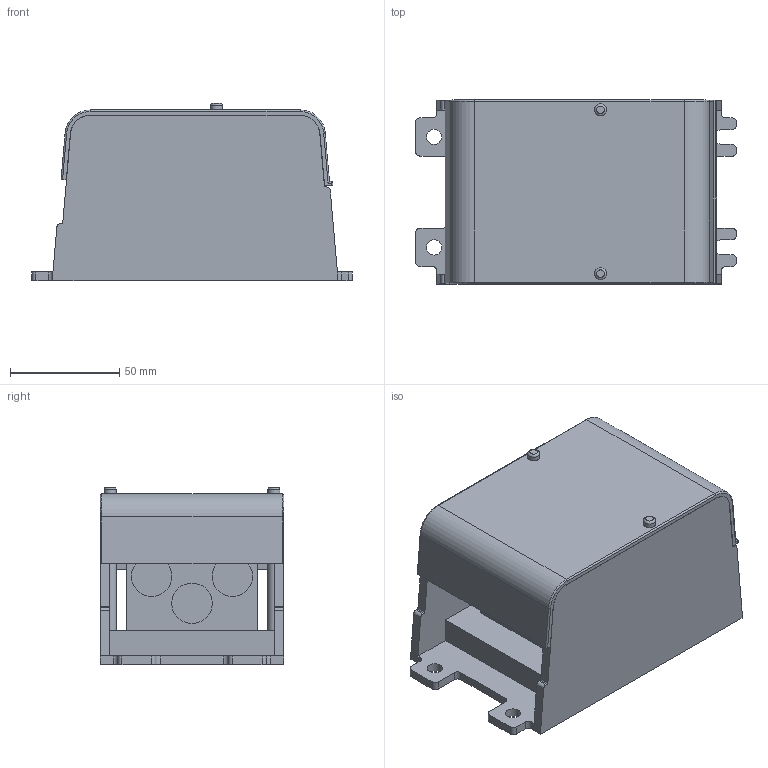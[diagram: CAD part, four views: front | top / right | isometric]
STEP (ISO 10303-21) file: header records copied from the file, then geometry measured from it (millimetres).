
FILE_DESCRIPTION(/* description */ ('Unknown'),/* implementation_level */ '2;1');
FILE_NAME(/* name */ 'utb-s 2x240_3x120',/* time_stamp */ '2021-05-10T12:34:34+02:00',/* author */ ('Unknown'),/* organization */ ('Unknown'),/* preprocessor_version */ 'ST-DEVELOPER v16.7',/* originating_system */ 'Solid Edge',/* authorisation */ 'Unknown');
FILE_SCHEMA (('AUTOMOTIVE_DESIGN {1 0 10303 214 3 1 1}'));
Length unit declared in the file: millimetre
Products named in the file (4): utb-s 2x240_3x120_sestava; utb-s 2x240_3x120; utb-s 2x240_3x120_viko; srb
Assembly tree (4 placements, depth 2):
  utb-s 2x240_3x120_sestava
    utb-s 2x240_3x120
    utb-s 2x240_3x120_viko
    srb  x2
Bounding box: 146.7 x 84 x 81 mm (x, y, z)
Volume: 364140.6 mm3; surface area: 113624.7 mm2
Topology: 4 solids, 4 shells, 277 faces, 712 edges, 457 vertices
Faces by surface type: plane 158, cylinder 94, cone 9, sphere 6, torus 6, bspline 4
Full cylindrical faces by diameter (mm): 2.4 x4, 3.1 x2, 5.5 x2, 7 x2, 15.8 x5, 18.5 x3, 23 x2
Entity records: 8130 total; most frequent: CARTESIAN_POINT 1454, DIRECTION 1388, ORIENTED_EDGE 1320, EDGE_CURVE 660, AXIS2_PLACEMENT_3D 472, LINE 444, VECTOR 444, VERTEX_POINT 438
